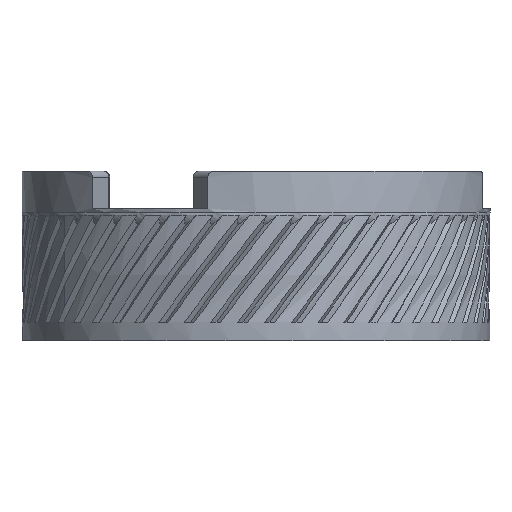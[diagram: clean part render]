
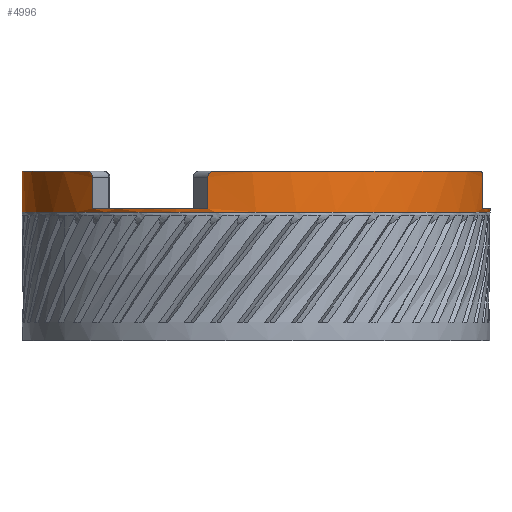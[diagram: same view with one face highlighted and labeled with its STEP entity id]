
A CAD part, front view. The second image highlights one B-rep face of the part: STEP entity #4996.
In plain terms, the highlighted cylindrical face has radius 37.5 mm (diameter 75 mm), a full revolution.
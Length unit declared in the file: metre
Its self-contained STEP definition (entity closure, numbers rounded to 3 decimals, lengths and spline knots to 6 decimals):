
#130=LINE('',#16159,#213);
#133=LINE('',#16176,#216);
#134=LINE('',#16177,#217);
#135=LINE('',#16192,#218);
#136=LINE('',#16208,#219);
#137=LINE('',#16209,#220);
#213=VECTOR('',#6018,1.);
#216=VECTOR('',#6027,1.);
#217=VECTOR('',#6028,1.);
#218=VECTOR('',#6031,1.);
#219=VECTOR('',#6034,1.);
#220=VECTOR('',#6035,1.);
#668=B_SPLINE_CURVE_WITH_KNOTS('',3,(#16170,#16171,#16172,#16173,#16174),
 .UNSPECIFIED.,.F.,.F.,(4,1,4),(0.,0.000799,0.001599),
 .UNSPECIFIED.);
#669=B_SPLINE_CURVE_WITH_KNOTS('',3,(#16179,#16180,#16181,#16182,#16183),
 .UNSPECIFIED.,.F.,.F.,(4,1,4),(0.,0.000799,0.001599),
 .UNSPECIFIED.);
#670=B_SPLINE_CURVE_WITH_KNOTS('',3,(#16187,#16188,#16189,#16190,#16191),
 .UNSPECIFIED.,.F.,.F.,(4,1,4),(0.,0.000799,
0.001599),.UNSPECIFIED.);
#671=B_SPLINE_CURVE_WITH_KNOTS('',3,(#16194,#16195,#16196,#16197,#16198),
 .UNSPECIFIED.,.F.,.F.,(4,1,4),(0.,0.000799,0.001599),
 .UNSPECIFIED.);
#672=B_SPLINE_CURVE_WITH_KNOTS('',3,(#16202,#16203,#16204,#16205,#16206),
 .UNSPECIFIED.,.F.,.F.,(4,1,4),(0.,0.000799,0.001599),
 .UNSPECIFIED.);
#673=B_SPLINE_CURVE_WITH_KNOTS('',3,(#16211,#16212,#16213,#16214,#16215),
 .UNSPECIFIED.,.F.,.F.,(4,1,4),(0.,0.000799,0.001599),
 .UNSPECIFIED.);
#2241=ORIENTED_EDGE('',*,*,#3277,.T.);
#2242=ORIENTED_EDGE('',*,*,#3278,.F.);
#2243=ORIENTED_EDGE('',*,*,#3279,.T.);
#2244=ORIENTED_EDGE('',*,*,#3280,.T.);
#2245=ORIENTED_EDGE('',*,*,#3030,.F.);
#2246=ORIENTED_EDGE('',*,*,#3281,.F.);
#2247=ORIENTED_EDGE('',*,*,#3282,.T.);
#2248=ORIENTED_EDGE('',*,*,#3283,.F.);
#2249=ORIENTED_EDGE('',*,*,#3284,.T.);
#2250=ORIENTED_EDGE('',*,*,#3274,.T.);
#2251=ORIENTED_EDGE('',*,*,#3024,.F.);
#2252=ORIENTED_EDGE('',*,*,#3285,.F.);
#2253=ORIENTED_EDGE('',*,*,#3286,.T.);
#2254=ORIENTED_EDGE('',*,*,#3287,.F.);
#2255=ORIENTED_EDGE('',*,*,#3288,.T.);
#2256=ORIENTED_EDGE('',*,*,#3289,.T.);
#2257=ORIENTED_EDGE('',*,*,#3036,.F.);
#2258=ORIENTED_EDGE('',*,*,#3290,.F.);
#2259=ORIENTED_EDGE('',*,*,#3291,.T.);
#3024=EDGE_CURVE('',#3657,#3658,#3971,.T.);
#3030=EDGE_CURVE('',#3663,#3664,#3975,.T.);
#3036=EDGE_CURVE('',#3669,#3670,#3979,.T.);
#3274=EDGE_CURVE('',#3836,#3658,#130,.T.);
#3277=EDGE_CURVE('',#3838,#3838,#4040,.F.);
#3278=EDGE_CURVE('',#3839,#3840,#4041,.T.);
#3279=EDGE_CURVE('',#3839,#3841,#668,.T.);
#3280=EDGE_CURVE('',#3841,#3664,#133,.T.);
#3281=EDGE_CURVE('',#3842,#3663,#134,.T.);
#3282=EDGE_CURVE('',#3842,#3843,#669,.T.);
#3283=EDGE_CURVE('',#3844,#3843,#4042,.T.);
#3284=EDGE_CURVE('',#3844,#3836,#670,.T.);
#3285=EDGE_CURVE('',#3845,#3657,#135,.T.);
#3286=EDGE_CURVE('',#3845,#3846,#671,.T.);
#3287=EDGE_CURVE('',#3847,#3846,#4043,.T.);
#3288=EDGE_CURVE('',#3847,#3848,#672,.T.);
#3289=EDGE_CURVE('',#3848,#3670,#136,.T.);
#3290=EDGE_CURVE('',#3849,#3669,#137,.T.);
#3291=EDGE_CURVE('',#3849,#3840,#673,.T.);
#3657=VERTEX_POINT('',#11730);
#3658=VERTEX_POINT('',#11732);
#3663=VERTEX_POINT('',#11743);
#3664=VERTEX_POINT('',#11745);
#3669=VERTEX_POINT('',#11756);
#3670=VERTEX_POINT('',#11758);
#3836=VERTEX_POINT('',#16160);
#3838=VERTEX_POINT('',#16166);
#3839=VERTEX_POINT('',#16168);
#3840=VERTEX_POINT('',#16169);
#3841=VERTEX_POINT('',#16175);
#3842=VERTEX_POINT('',#16178);
#3843=VERTEX_POINT('',#16184);
#3844=VERTEX_POINT('',#16186);
#3845=VERTEX_POINT('',#16193);
#3846=VERTEX_POINT('',#16199);
#3847=VERTEX_POINT('',#16201);
#3848=VERTEX_POINT('',#16207);
#3849=VERTEX_POINT('',#16210);
#3971=CIRCLE('',#5152,0.0375);
#3975=CIRCLE('',#5157,0.0375);
#3979=CIRCLE('',#5162,0.0375);
#4040=CIRCLE('',#5328,0.0375);
#4041=CIRCLE('',#5329,0.0375);
#4042=CIRCLE('',#5330,0.0375);
#4043=CIRCLE('',#5331,0.0375);
#4351=EDGE_LOOP('',(#2241));
#4352=EDGE_LOOP('',(#2242,#2243,#2244,#2245,#2246,#2247,#2248,#2249,#2250,
#2251,#2252,#2253,#2254,#2255,#2256,#2257,#2258,#2259));
#4670=FACE_BOUND('',#4351,.T.);
#4671=FACE_BOUND('',#4352,.T.);
#4723=CYLINDRICAL_SURFACE('',#5327,0.0375);
#4996=ADVANCED_FACE('',(#4670,#4671),#4723,.T.);
#5152=AXIS2_PLACEMENT_3D('',#11731,#5610,#5611);
#5157=AXIS2_PLACEMENT_3D('',#11744,#5622,#5623);
#5162=AXIS2_PLACEMENT_3D('',#11757,#5634,#5635);
#5327=AXIS2_PLACEMENT_3D('',#16164,#6021,#6022);
#5328=AXIS2_PLACEMENT_3D('',#16165,#6023,#6024);
#5329=AXIS2_PLACEMENT_3D('',#16167,#6025,#6026);
#5330=AXIS2_PLACEMENT_3D('',#16185,#6029,#6030);
#5331=AXIS2_PLACEMENT_3D('',#16200,#6032,#6033);
#5610=DIRECTION('',(0.,0.,1.));
#5611=DIRECTION('',(-1.,0.,0.));
#5622=DIRECTION('',(0.,0.,1.));
#5623=DIRECTION('',(-1.,0.,0.));
#5634=DIRECTION('',(0.,0.,1.));
#5635=DIRECTION('',(-1.,0.,0.));
#6018=DIRECTION('',(0.,0.,-1.));
#6021=DIRECTION('',(0.,0.,-1.));
#6022=DIRECTION('',(1.,0.,0.));
#6023=DIRECTION('',(0.,0.,-1.));
#6024=DIRECTION('',(1.,0.,0.));
#6025=DIRECTION('',(0.,0.,1.));
#6026=DIRECTION('',(-1.,0.,0.));
#6027=DIRECTION('',(0.,0.,-1.));
#6028=DIRECTION('',(0.,0.,-1.));
#6029=DIRECTION('',(0.,0.,1.));
#6030=DIRECTION('',(-1.,0.,0.));
#6031=DIRECTION('',(0.,0.,-1.));
#6032=DIRECTION('',(0.,0.,1.));
#6033=DIRECTION('',(-1.,0.,0.));
#6034=DIRECTION('',(0.,0.,-1.));
#6035=DIRECTION('',(0.,0.,-1.));
#11730=CARTESIAN_POINT('',(0.03632,-0.009332,0.0746));
#11731=CARTESIAN_POINT('',(0.,0.,0.0746));
#11732=CARTESIAN_POINT('',(0.035642,0.011657,0.0746));
#11743=CARTESIAN_POINT('',(-0.010078,0.03612,0.0746));
#11744=CARTESIAN_POINT('',(0.,0.,0.0746));
#11745=CARTESIAN_POINT('',(-0.027916,0.025039,0.0746));
#11756=CARTESIAN_POINT('',(-0.026242,-0.026788,0.0746));
#11757=CARTESIAN_POINT('',(0.,0.,0.0746));
#11758=CARTESIAN_POINT('',(-0.007726,-0.036696,0.0746));
#16159=CARTESIAN_POINT('',(0.035642,0.011657,0.0806));
#16160=CARTESIAN_POINT('',(0.035642,0.011657,0.0796));
#16164=CARTESIAN_POINT('',(0.,0.,0.0806));
#16165=CARTESIAN_POINT('',(0.,0.,0.074043));
#16166=CARTESIAN_POINT('',(0.0375,0.,0.074043));
#16167=CARTESIAN_POINT('',(0.,0.,0.0806));
#16168=CARTESIAN_POINT('',(-0.028604,0.02425,0.0806));
#16169=CARTESIAN_POINT('',(-0.026979,-0.026046,0.0806));
#16170=CARTESIAN_POINT('',(-0.028604,0.02425,0.0806));
#16171=CARTESIAN_POINT('',(-0.028429,0.024456,0.0806));
#16172=CARTESIAN_POINT('',(-0.028078,0.024859,0.080396));
#16173=CARTESIAN_POINT('',(-0.027916,0.025039,0.079871));
#16174=CARTESIAN_POINT('',(-0.027916,0.025039,0.0796));
#16175=CARTESIAN_POINT('',(-0.027916,0.025039,0.0796));
#16176=CARTESIAN_POINT('',(-0.027916,0.025039,0.0806));
#16177=CARTESIAN_POINT('',(-0.010078,0.03612,0.0806));
#16178=CARTESIAN_POINT('',(-0.010078,0.03612,0.0796));
#16179=CARTESIAN_POINT('',(-0.010078,0.03612,0.0796));
#16180=CARTESIAN_POINT('',(-0.010078,0.03612,0.07987));
#16181=CARTESIAN_POINT('',(-0.009847,0.036186,0.080395));
#16182=CARTESIAN_POINT('',(-0.009329,0.036322,0.0806));
#16183=CARTESIAN_POINT('',(-0.009067,0.036387,0.0806));
#16184=CARTESIAN_POINT('',(-0.009067,0.036387,0.0806));
#16185=CARTESIAN_POINT('',(0.,0.,0.0806));
#16186=CARTESIAN_POINT('',(0.035303,0.012647,0.0806));
#16187=CARTESIAN_POINT('',(0.035303,0.012647,0.0806));
#16188=CARTESIAN_POINT('',(0.035394,0.012392,0.0806));
#16189=CARTESIAN_POINT('',(0.035568,0.011887,0.080396));
#16190=CARTESIAN_POINT('',(0.035642,0.011657,0.079871));
#16191=CARTESIAN_POINT('',(0.035642,0.011657,0.0796));
#16192=CARTESIAN_POINT('',(0.03632,-0.009332,0.0806));
#16193=CARTESIAN_POINT('',(0.03632,-0.009332,0.0796));
#16194=CARTESIAN_POINT('',(0.03632,-0.009332,0.0796));
#16195=CARTESIAN_POINT('',(0.03632,-0.009332,0.07987));
#16196=CARTESIAN_POINT('',(0.036261,-0.009565,0.080395));
#16197=CARTESIAN_POINT('',(0.03612,-0.010082,0.0806));
#16198=CARTESIAN_POINT('',(0.036046,-0.010342,0.0806));
#16199=CARTESIAN_POINT('',(0.036046,-0.010342,0.0806));
#16200=CARTESIAN_POINT('',(0.,0.,0.0806));
#16201=CARTESIAN_POINT('',(-0.006699,-0.036897,0.0806));
#16202=CARTESIAN_POINT('',(-0.006699,-0.036897,0.0806));
#16203=CARTESIAN_POINT('',(-0.006965,-0.036848,0.0806));
#16204=CARTESIAN_POINT('',(-0.00749,-0.036746,0.080396));
#16205=CARTESIAN_POINT('',(-0.007726,-0.036696,0.079871));
#16206=CARTESIAN_POINT('',(-0.007726,-0.036696,0.0796));
#16207=CARTESIAN_POINT('',(-0.007726,-0.036696,0.0796));
#16208=CARTESIAN_POINT('',(-0.007726,-0.036696,0.0806));
#16209=CARTESIAN_POINT('',(-0.026242,-0.026788,0.0806));
#16210=CARTESIAN_POINT('',(-0.026242,-0.026788,0.0796));
#16211=CARTESIAN_POINT('',(-0.026242,-0.026788,0.0796));
#16212=CARTESIAN_POINT('',(-0.026242,-0.026788,0.07987));
#16213=CARTESIAN_POINT('',(-0.026414,-0.026621,0.080395));
#16214=CARTESIAN_POINT('',(-0.026791,-0.02624,0.0806));
#16215=CARTESIAN_POINT('',(-0.026979,-0.026046,0.0806));
